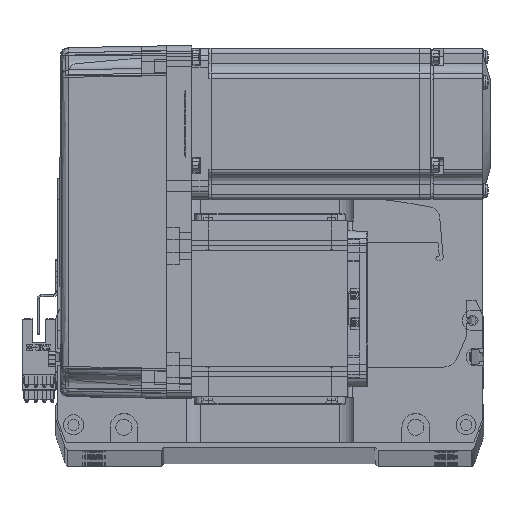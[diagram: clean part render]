
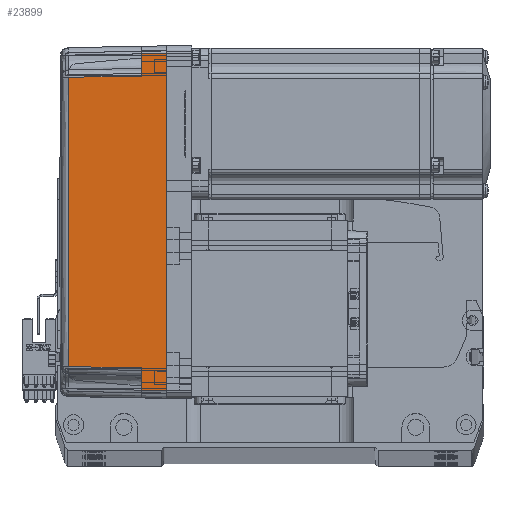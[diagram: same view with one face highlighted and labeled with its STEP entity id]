
A CAD part, top view. The second image highlights one B-rep face of the part: STEP entity #23899.
In plain terms, the highlighted planar face has unit normal (-0.018, 0, 1) as drawn and (0, 1, 0.017) by its records, which use the part's own axes.
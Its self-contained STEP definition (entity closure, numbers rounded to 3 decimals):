
#777 = CARTESIAN_POINT ( 'NONE',  ( -57.495, 35.32, 38.985 ) ) ;
#2076 = DIRECTION ( 'NONE',  ( 0., -0.017, 1. ) ) ;
#3878 = ORIENTED_EDGE ( 'NONE', *, *, #67264, .T. ) ;
#4185 = DIRECTION ( 'NONE',  ( 1., 0., 0. ) ) ;
#4370 = EDGE_CURVE ( 'NONE', #72769, #13054, #34419, .T. ) ;
#4712 = CARTESIAN_POINT ( 'NONE',  ( -67., 36., 0. ) ) ;
#6190 = CARTESIAN_POINT ( 'NONE',  ( 58., 35.825, 10. ) ) ;
#6925 = EDGE_LOOP ( 'NONE', ( #54865, #35514, #3878, #7784, #32855, #46295, #31034, #70928 ) ) ;
#6976 = VECTOR ( 'NONE', #42352, 1000. ) ;
#7784 = ORIENTED_EDGE ( 'NONE', *, *, #70069, .T. ) ;
#8737 = DIRECTION ( 'NONE',  ( 0., 1., 0.017 ) ) ;
#11195 = VERTEX_POINT ( 'NONE', #777 ) ;
#11218 = CARTESIAN_POINT ( 'NONE',  ( -19.165, 35.316, 39.181 ) ) ;
#13054 = VERTEX_POINT ( 'NONE', #62506 ) ;
#14279 = LINE ( 'NONE', #27124, #61090 ) ;
#14872 = CARTESIAN_POINT ( 'NONE',  ( 67.001, 36.001, -0.052 ) ) ;
#15007 = VECTOR ( 'NONE', #32406, 1000. ) ;
#16433 = DIRECTION ( 'NONE',  ( 1., 0., 0. ) ) ;
#19872 = VERTEX_POINT ( 'NONE', #71671 ) ;
#20473 = EDGE_CURVE ( 'NONE', #38707, #19872, #14279, .T. ) ;
#21017 = VECTOR ( 'NONE', #40263, 1000. ) ;
#23899 = ADVANCED_FACE ( 'NONE', ( #44137 ), #70463, .T. ) ;
#25365 = CARTESIAN_POINT ( 'NONE',  ( 70., 35.825, 10. ) ) ;
#25661 = VECTOR ( 'NONE', #16433, 1000. ) ;
#27124 = CARTESIAN_POINT ( 'NONE',  ( 70., 35.825, 10. ) ) ;
#27252 = DIRECTION ( 'NONE',  ( 0.017, 0.017, -1. ) ) ;
#28231 = CARTESIAN_POINT ( 'NONE',  ( 0., 36., 0. ) ) ;
#28249 = LINE ( 'NONE', #50972, #65370 ) ;
#28450 = CARTESIAN_POINT ( 'NONE',  ( 57.495, 35.32, 38.985 ) ) ;
#30774 = VERTEX_POINT ( 'NONE', #6190 ) ;
#31034 = ORIENTED_EDGE ( 'NONE', *, *, #4370, .F. ) ;
#32406 = DIRECTION ( 'NONE',  ( -0.017, -0.017, 1. ) ) ;
#32474 = CARTESIAN_POINT ( 'NONE',  ( 67., 36., 0. ) ) ;
#32855 = ORIENTED_EDGE ( 'NONE', *, *, #42173, .T. ) ;
#33184 = CARTESIAN_POINT ( 'NONE',  ( 57.495, 35.32, 38.985 ) ) ;
#34419 = LINE ( 'NONE', #14872, #15007 ) ;
#34576 = CARTESIAN_POINT ( 'NONE',  ( -58., 35.825, 10. ) ) ;
#35402 = CARTESIAN_POINT ( 'NONE',  ( -66.826, 35.825, 10. ) ) ;
#35514 = ORIENTED_EDGE ( 'NONE', *, *, #20473, .T. ) ;
#35981 = LINE ( 'NONE', #34576, #21017 ) ;
#38707 = VERTEX_POINT ( 'NONE', #35402 ) ;
#39558 = CARTESIAN_POINT ( 'NONE',  ( -57.495, 35.32, 38.985 ) ) ;
#40242 = B_SPLINE_CURVE_WITH_KNOTS ( 'NONE', 3,
 ( #39558, #11218, #50663, #28450 ),
 .UNSPECIFIED., .F., .F.,
 ( 4, 4 ),
 ( 0., 1. ),
 .UNSPECIFIED. ) ;
#40263 = DIRECTION ( 'NONE',  ( 0.017, -0.017, 1. ) ) ;
#42173 = EDGE_CURVE ( 'NONE', #62607, #30774, #50724, .T. ) ;
#42352 = DIRECTION ( 'NONE',  ( 1., 0., 0. ) ) ;
#43141 = LINE ( 'NONE', #25365, #6976 ) ;
#44137 = FACE_OUTER_BOUND ( 'NONE', #6925, .T. ) ;
#46295 = ORIENTED_EDGE ( 'NONE', *, *, #66527, .T. ) ;
#47196 = VECTOR ( 'NONE', #27252, 1000. ) ;
#48554 = LINE ( 'NONE', #28231, #25661 ) ;
#50663 = CARTESIAN_POINT ( 'NONE',  ( 19.165, 35.316, 39.181 ) ) ;
#50724 = LINE ( 'NONE', #33184, #47196 ) ;
#50972 = CARTESIAN_POINT ( 'NONE',  ( -67., 36., 0. ) ) ;
#53643 = CARTESIAN_POINT ( 'NONE',  ( 70., 36., 0. ) ) ;
#54147 = DIRECTION ( 'NONE',  ( 0.017, -0.017, 1. ) ) ;
#54586 = EDGE_CURVE ( 'NONE', #62194, #72769, #48554, .T. ) ;
#54865 = ORIENTED_EDGE ( 'NONE', *, *, #62198, .T. ) ;
#61090 = VECTOR ( 'NONE', #4185, 1000. ) ;
#62194 = VERTEX_POINT ( 'NONE', #4712 ) ;
#62198 = EDGE_CURVE ( 'NONE', #62194, #38707, #28249, .T. ) ;
#62275 = CARTESIAN_POINT ( 'NONE',  ( 57.495, 35.32, 38.985 ) ) ;
#62506 = CARTESIAN_POINT ( 'NONE',  ( 66.826, 35.825, 10. ) ) ;
#62607 = VERTEX_POINT ( 'NONE', #62275 ) ;
#65370 = VECTOR ( 'NONE', #54147, 1000. ) ;
#66527 = EDGE_CURVE ( 'NONE', #30774, #13054, #43141, .T. ) ;
#67264 = EDGE_CURVE ( 'NONE', #19872, #11195, #35981, .T. ) ;
#70069 = EDGE_CURVE ( 'NONE', #11195, #62607, #40242, .T. ) ;
#70463 = PLANE ( 'NONE',  #71593 ) ;
#70928 = ORIENTED_EDGE ( 'NONE', *, *, #54586, .F. ) ;
#71593 = AXIS2_PLACEMENT_3D ( 'NONE', #53643, #8737, #2076 ) ;
#71671 = CARTESIAN_POINT ( 'NONE',  ( -58., 35.825, 10. ) ) ;
#72769 = VERTEX_POINT ( 'NONE', #32474 ) ;
